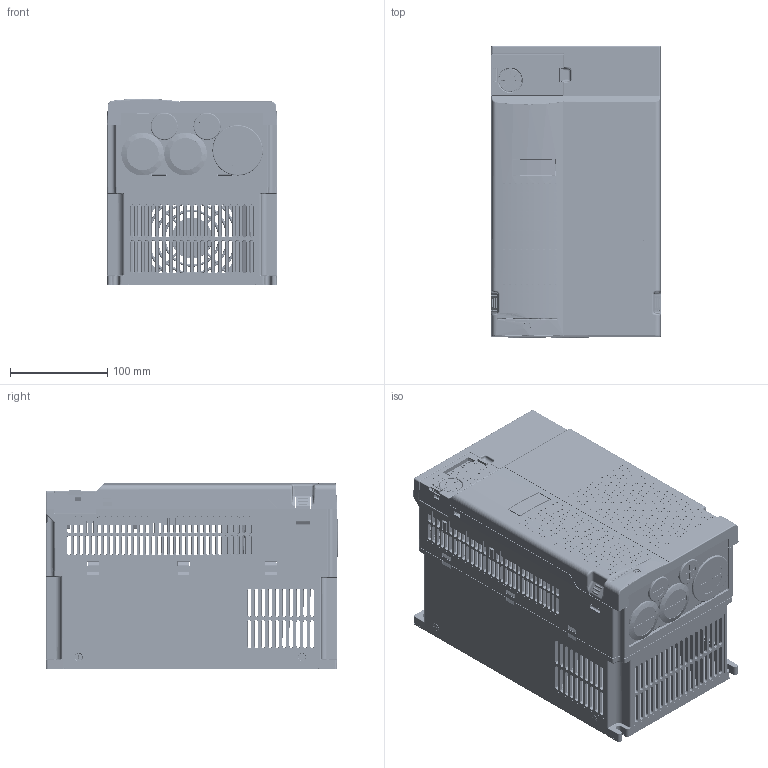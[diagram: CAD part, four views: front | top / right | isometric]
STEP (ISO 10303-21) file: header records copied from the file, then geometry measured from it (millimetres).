
FILE_DESCRIPTION((''),'2;1');
FILE_NAME('C:\Users\Administrator.UBZNNCCSU1NXVGS\Desktop\D框架组立图.stp','2018-01-02T13:57:02',('Administrator'),(''),'Autodesk Inventor 2013','Autodesk Inventor 2013','');
FILE_SCHEMA(('AUTOMOTIVE_DESIGN { 1 2 10303 214 0 1 1 1 }'));
Length unit declared in the file: millimetre
Products named in the file (1): D框架组立图
Bounding box: 175.4 x 301.4 x 192 mm (x, y, z)
Surface area: 1086548 mm2 (no closed solid volume)
Topology: 0 solids, 140 shells, 17257 faces, 51681 edges, 35386 vertices
Faces by surface type: plane 11943, cylinder 3814, cone 828, bspline 469, torus 130, sphere 73
Full cylindrical faces by diameter (mm): 0.5 x14, 0.7 x13, 0.9 x8, 1 x4, 1.2 x2, 1.7 x4, 1.8 x2, 2 x4, 2.36 x2, 2.5 x62, 3 x6, 3.2 x2, 3.4 x5, 3.49 x1, 3.98 x1, 4 x10, 4.2 x3, 4.4 x1, 4.5 x8, 4.567 x10, 5 x23, 5.2 x3, 5.3 x10, 5.5 x2, 6 x2, 6.2 x5, 7 x1, 7.5 x4, 8 x6, 8.66 x2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
Entity records: 839506 total; most frequent: CARTESIAN_POINT 357328, ORIENTED_EDGE 102078, DIRECTION 89034, EDGE_CURVE 51039, VECTOR 35310, LINE 35310, VERTEX_POINT 35279, AXIS2_PLACEMENT_3D 26862
